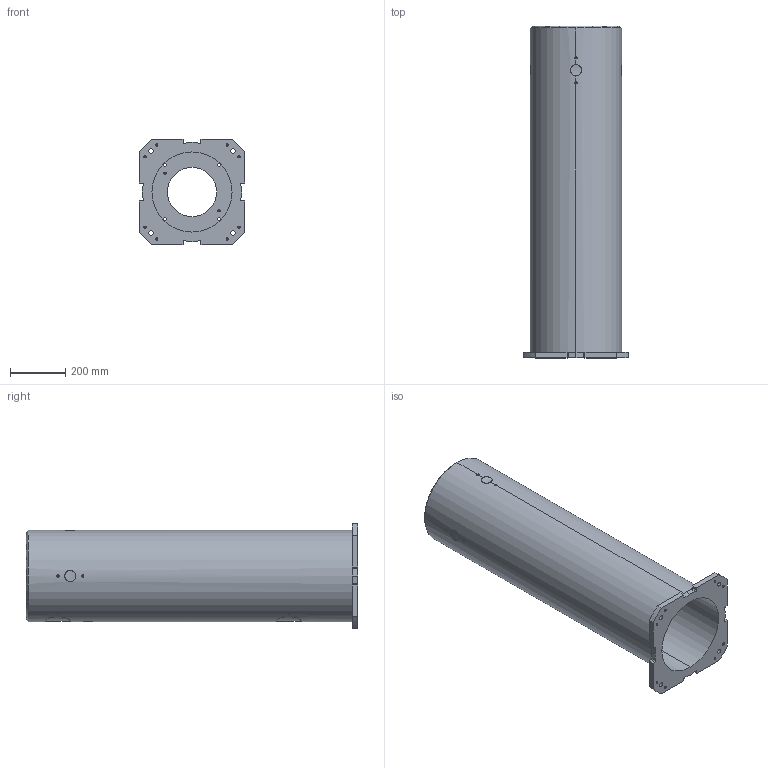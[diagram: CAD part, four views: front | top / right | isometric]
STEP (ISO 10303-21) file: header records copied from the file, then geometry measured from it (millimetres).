
FILE_DESCRIPTION (( 'STEP AP214' ), '1' );
FILE_NAME ('E-1200.STEP', '2024-01-19T09:45:12', ( '' ), ( '' ), 'SwSTEP 2.0', 'SolidWorks 2022', '' );
FILE_SCHEMA (( 'AUTOMOTIVE_DESIGN' ));
Length unit declared in the file: millimetre
Products named in the file (1): E-1200
Bounding box: 380 x 1200 x 380 mm (x, y, z)
Volume: 25072191.7 mm3; surface area: 2571753.5 mm2
Topology: 1 solids, 1 shells, 171 faces, 449 edges, 292 vertices
Faces by surface type: cylinder 117, plane 28, bspline 24, cone 2
Entity records: 12364 total; most frequent: CARTESIAN_POINT 7665, ORIENTED_EDGE 898, DIRECTION 729, EDGE_CURVE 449, VERTEX_POINT 292, AXIS2_PLACEMENT_3D 274, EDGE_LOOP 221, LINE 181
